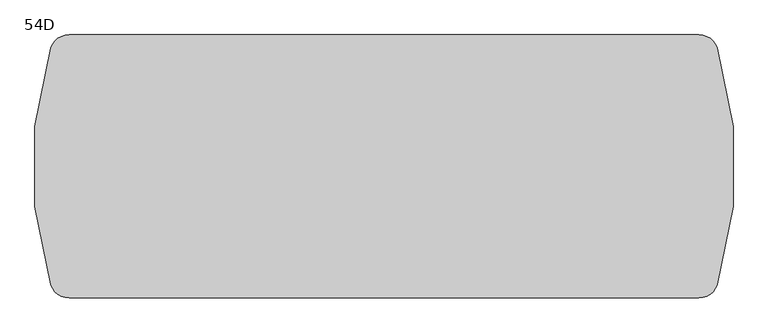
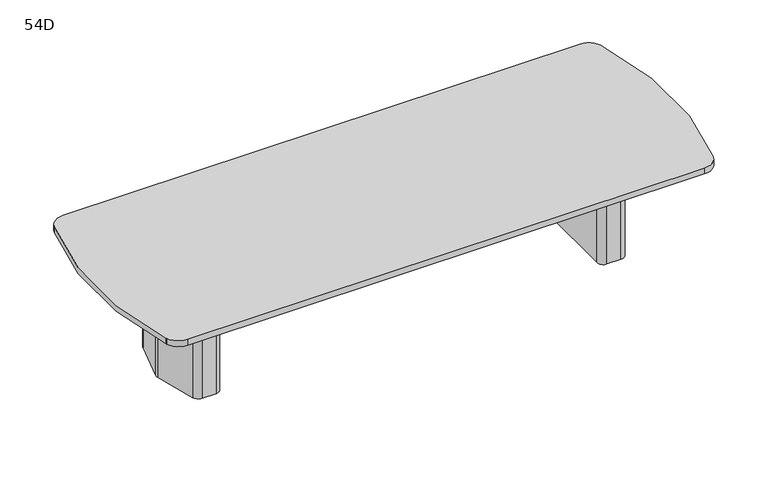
"""IFC4 building model written with IfcOpenShell, lengths in millimetres: furniture geometry, Coalesse_AM_Table_Conference_ETable2_SoftRadiused_12ft_TwoBase : 54D."""

from ifc_helpers import new_model, si_unit, point, frame, frame_2d, origin, place, context, project, spatial, polyline, circle_curve, trimmed, segment, composite_curve, outline, extrude, source, transform, mapped, element, save
from ifc_brep_helpers import plane_surface, cylinder_surface, revolved_surface, advanced_brep


def furniture_54d_40802029(model_context):
    return source(origin(), model_context, "Body", "SolidModel", [
        advanced_brep(
        [(1370.224548, 274.2093613, 698.5), (1330.3579246, 304.8, 698.5), (1241.425, 304.8, 698.5), (1200.15, 263.525, 698.5), (1200.15, -263.525, 698.5), (1241.425, -304.8, 698.5), (1330.3579246, -304.8, 698.5), (1370.224548, -274.2093613, 698.5), (1440.8503901, -10.6333708, 698.5), (1440.8503901, 10.6333708, 698.5), (1238.25, -206.375, 698.5), (1238.25, 206.375, 698.5), (1263.65, 231.775, 698.5), (1322.6608422, 231.775, 698.5), (1347.195338, 212.9490792, 698.5), (1385.8875, 68.54974, 698.5), (1385.8875, -68.54974, 698.5), (1347.195338, -212.9490792, 698.5), (1322.6608422, -231.775, 698.5), (1263.65, -231.775, 698.5), (1370.224548, 274.2093613, 3.175), (1440.8503901, 10.6333708, 3.175), (1440.8503901, -10.6333708, 3.175), (1370.224548, -274.2093613, 3.175), (1330.3579246, -304.8, 3.175), (1241.425, -304.8, 3.175), (1200.15, -263.525, 3.175), (1200.15, 263.525, 3.175), (1241.425, 304.8, 3.175), (1330.3579246, 304.8, 3.175), (1359.4625859, 216.2361187, 3.175), (1322.6608422, 244.475, 3.175), (1263.65, 244.475, 3.175), (1225.55, 206.375, 3.175), (1225.55, -206.375, 3.175), (1263.65, -244.475, 3.175), (1322.6608422, -244.475, 3.175), (1359.4625859, -216.2361187, 3.175), (1398.5875, -70.2217466, 3.175), (1398.5875, 70.2217466, 3.175), (1263.65, -231.775, 3.175), (1238.25, -206.375, 3.175), (1322.6608422, -231.775, 3.175), (1347.195338, -212.9490792, 3.175), (1385.8875, -68.54974, 3.175), (1385.8875, 68.54974, 3.175), (1347.195338, 212.9490792, 3.175), (1322.6608422, 231.775, 3.175), (1263.65, 231.775, 3.175), (1238.25, 206.375, 3.175), (1359.4625859, 216.2361187, 0.0), (1398.5875, 70.2217466, 0.0), (1398.5875, -70.2217466, 0.0), (1359.4625859, -216.2361187, 0.0), (1322.6608422, -244.475, 0.0), (1263.65, -244.475, 0.0), (1225.55, -206.375, 0.0), (1225.55, 206.375, 0.0), (1263.65, 244.475, 0.0), (1322.6608422, 244.475, 0.0)],
        [
            (0, 1, circle_curve(frame((1330.3579246, 263.5270004, 698.5), z_axis=(0.0, 0.0, 1.0), x_axis=(-1.0, 0.0, 0.0)), 41.2729996)),
            (1, 2),
            (2, 3, circle_curve(frame((1241.425, 263.525, 698.5), z_axis=(0.0, 0.0, 1.0), x_axis=(-1.0, 0.0, 0.0)), 41.275)),
            (3, 4),
            (4, 5, circle_curve(frame((1241.425, -263.525, 698.5), z_axis=(0.0, 0.0, 1.0), x_axis=(-1.0, 0.0, 0.0)), 41.275)),
            (5, 6),
            (6, 7, circle_curve(frame((1330.3579246, -263.5270004, 698.5), z_axis=(0.0, 0.0, 1.0), x_axis=(-1.0, 0.0, 0.0)), 41.2729996)),
            (7, 8),
            (8, 9, circle_curve(frame((1401.1665979, 0.0, 698.5), z_axis=(0.0, 0.0, 1.0), x_axis=(-1.0, 0.0, 0.0)), 41.0837187)),
            (9, 0),
            (10, 11),
            (11, 12, circle_curve(frame((1263.65, 206.375, 698.5), z_axis=(0.0, 0.0, -1.0), x_axis=(-1.0, 0.0, 0.0)), 25.4)),
            (12, 13),
            (13, 14, circle_curve(frame((1322.6608422, 206.375, 698.5), z_axis=(0.0, 0.0, -1.0), x_axis=(-1.0, 0.0, 0.0)), 25.4)),
            (14, 15),
            (15, 16),
            (16, 17),
            (17, 18, circle_curve(frame((1322.6608422, -206.375, 698.5), z_axis=(0.0, 0.0, -1.0), x_axis=(-1.0, 0.0, 0.0)), 25.4)),
            (18, 19),
            (19, 10, circle_curve(frame((1263.65, -206.375, 698.5), z_axis=(0.0, 0.0, -1.0), x_axis=(-1.0, 0.0, 0.0)), 25.4)),
            (20, 21),
            (21, 22, circle_curve(frame((1401.1665979, 0.0, 3.175), z_axis=(0.0, 0.0, -1.0), x_axis=(-1.0, 0.0, 0.0)), 41.0837187)),
            (22, 23),
            (23, 24, circle_curve(frame((1330.3579246, -263.5270004, 3.175), z_axis=(0.0, 0.0, -1.0), x_axis=(-1.0, 0.0, 0.0)), 41.2729996)),
            (24, 25),
            (25, 26, circle_curve(frame((1241.425, -263.525, 3.175), z_axis=(0.0, 0.0, -1.0), x_axis=(-1.0, 0.0, 0.0)), 41.275)),
            (26, 27),
            (27, 28, circle_curve(frame((1241.425, 263.525, 3.175), z_axis=(0.0, 0.0, -1.0), x_axis=(-1.0, 0.0, 0.0)), 41.275)),
            (28, 29),
            (29, 20, circle_curve(frame((1330.3579246, 263.5270004, 3.175), z_axis=(0.0, 0.0, -1.0), x_axis=(-1.0, 0.0, 0.0)), 41.2729996)),
            (30, 31, circle_curve(frame((1322.6608422, 206.375, 3.175), z_axis=(0.0, 0.0, 1.0), x_axis=(-1.0, 0.0, 0.0)), 38.1)),
            (31, 32),
            (32, 33, circle_curve(frame((1263.65, 206.375, 3.175), z_axis=(0.0, 0.0, 1.0), x_axis=(-1.0, 0.0, 0.0)), 38.1)),
            (33, 34),
            (34, 35, circle_curve(frame((1263.65, -206.375, 3.175), z_axis=(0.0, 0.0, 1.0), x_axis=(-1.0, 0.0, 0.0)), 38.1)),
            (35, 36),
            (36, 37, circle_curve(frame((1322.6608422, -206.375, 3.175), z_axis=(0.0, 0.0, 1.0), x_axis=(-1.0, 0.0, 0.0)), 38.1)),
            (37, 38),
            (38, 39),
            (39, 30),
            (9, 21),
            (20, 0),
            (8, 22),
            (7, 23),
            (6, 24),
            (5, 25),
            (4, 26),
            (3, 27),
            (2, 28),
            (1, 29),
            (19, 40),
            (40, 41, circle_curve(frame((1263.65, -206.375, 3.175), z_axis=(0.0, 0.0, -1.0), x_axis=(-1.0, 0.0, 0.0)), 25.4)),
            (41, 10),
            (18, 42),
            (42, 40),
            (17, 43),
            (43, 42, circle_curve(frame((1322.6608422, -206.375, 3.175), z_axis=(0.0, 0.0, -1.0), x_axis=(-1.0, 0.0, 0.0)), 25.4)),
            (16, 44),
            (44, 43),
            (15, 45),
            (45, 44),
            (14, 46),
            (46, 45),
            (13, 47),
            (47, 46, circle_curve(frame((1322.6608422, 206.375, 3.175), z_axis=(0.0, 0.0, -1.0), x_axis=(-1.0, 0.0, 0.0)), 25.4)),
            (12, 48),
            (48, 47),
            (11, 49),
            (49, 48, circle_curve(frame((1263.65, 206.375, 3.175), z_axis=(0.0, 0.0, -1.0), x_axis=(-1.0, 0.0, 0.0)), 25.4)),
            (41, 49),
            (50, 51),
            (51, 52),
            (52, 53),
            (53, 54, circle_curve(frame((1322.6608422, -206.375, 0.0), z_axis=(0.0, 0.0, -1.0), x_axis=(-1.0, 0.0, 0.0)), 38.1)),
            (54, 55),
            (55, 56, circle_curve(frame((1263.65, -206.375, 0.0), z_axis=(0.0, 0.0, -1.0), x_axis=(-1.0, 0.0, 0.0)), 38.1)),
            (56, 57),
            (57, 58, circle_curve(frame((1263.65, 206.375, 0.0), z_axis=(0.0, 0.0, -1.0), x_axis=(-1.0, 0.0, 0.0)), 38.1)),
            (58, 59),
            (59, 50, circle_curve(frame((1322.6608422, 206.375, 0.0), z_axis=(0.0, 0.0, -1.0), x_axis=(-1.0, 0.0, 0.0)), 38.1)),
            (50, 30),
            (39, 51),
            (38, 52),
            (37, 53),
            (36, 54),
            (35, 55),
            (34, 56),
            (33, 57),
            (32, 58),
            (31, 59),
        ],
        [
            plane_surface(frame((1440.8374275, 10.6817473, 698.5), z_axis=(0.0, 0.0, 1.0000000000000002), x_axis=(0.25882201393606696, -0.9659250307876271, 0.0))),
            plane_surface(frame((1440.8374275, 10.6817473, 3.175), z_axis=(0.0, 0.0, -1.0000000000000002), x_axis=(-0.25882201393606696, 0.9659250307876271, 0.0))),
            plane_surface(frame((1370.224548, 274.2093613, 698.5), z_axis=(0.9659250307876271, 0.25882201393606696, 0.0), x_axis=(0.0, 0.0, -1.0))),
            cylinder_surface(frame((1401.1665979, 0.0, 3.175), z_axis=(0.0, 0.0, 1.0), x_axis=(-1.0, 0.0, 0.0)), 41.0837187),
            plane_surface(frame((1440.8503901, -10.6333708, 698.5), z_axis=(0.9659250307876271, -0.2588220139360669, 0.0), x_axis=(0.0, 0.0, -1.0))),
            cylinder_surface(frame((1330.3579246, -263.5270004, 3.175), z_axis=(0.0, 0.0, 1.0), x_axis=(-1.0, 0.0, 0.0)), 41.2729996),
            plane_surface(frame((1330.3579246, -304.8, 698.5), z_axis=(0.0, -1.0, 0.0), x_axis=(0.0, 0.0, -1.0))),
            cylinder_surface(frame((1241.425, -263.525, 3.175), z_axis=(0.0, 0.0, 1.0), x_axis=(-1.0, 0.0, 0.0)), 41.275),
            plane_surface(frame((1200.15, -263.525, 698.5), z_axis=(-1.0, 0.0, 0.0), x_axis=(0.0, 0.0, -1.0))),
            cylinder_surface(frame((1241.425, 263.525, 3.175), z_axis=(0.0, 0.0, 1.0), x_axis=(-1.0, 0.0, 0.0)), 41.275),
            plane_surface(frame((1241.425, 304.8, 698.5), z_axis=(0.0, 1.0, 0.0), x_axis=(0.0, 0.0, -1.0))),
            cylinder_surface(frame((1330.3579246, 263.5270004, 3.175), z_axis=(0.0, 0.0, 1.0), x_axis=(-1.0, 0.0, 0.0)), 41.2729996),
            revolved_surface(polyline([(1238.25, -206.375, 3.175), (1238.25, -206.375, 698.5)]), (1263.65, -206.375, 0.0), (0.0, 0.0, -1.0)),
            plane_surface(frame((1263.65, -231.775, 698.5), z_axis=(0.0, 1.0, 0.0), x_axis=(0.0, 0.0, -1.0))),
            revolved_surface(polyline([(1297.2608421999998, -206.375, 3.175), (1297.2608421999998, -206.375, 698.5)]), (1322.6608422, -206.375, 0.0), (0.0, 0.0, -1.0)),
            plane_surface(frame((1347.195338, -212.9490792, 698.5), z_axis=(-0.9659250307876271, 0.2588220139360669, 0.0), x_axis=(0.0, 0.0, -1.0))),
            plane_surface(frame((1385.8875, -68.54974, 698.5), z_axis=(-1.0, 0.0, 0.0), x_axis=(0.0, 0.0, -1.0))),
            plane_surface(frame((1385.8875, 68.54974, 698.5), z_axis=(-0.9659250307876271, -0.25882201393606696, 0.0), x_axis=(0.0, 0.0, -1.0))),
            revolved_surface(polyline([(1297.2608421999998, 206.375, 3.175), (1297.2608421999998, 206.375, 698.5)]), (1322.6608422, 206.375, 0.0), (0.0, 0.0, -1.0)),
            plane_surface(frame((1322.6608422, 231.775, 698.5), z_axis=(0.0, -1.0, 0.0), x_axis=(0.0, 0.0, -1.0))),
            revolved_surface(polyline([(1238.25, 206.375, 3.175), (1238.25, 206.375, 698.5)]), (1263.65, 206.375, 0.0), (0.0, 0.0, -1.0)),
            plane_surface(frame((1238.25, 206.375, 698.5), z_axis=(1.0, 0.0, 0.0), x_axis=(0.0, 0.0, -1.0))),
            plane_surface(frame((1398.1547479, 71.8367796, 3.175), z_axis=(0.0, 0.0, 1.0), x_axis=(0.25882201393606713, -0.965925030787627, 0.0))),
            plane_surface(frame((1398.1547479, 71.8367796, 0.0), z_axis=(0.0, 0.0, -1.0), x_axis=(-0.25882201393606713, 0.965925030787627, 0.0))),
            plane_surface(frame((1359.4625859, 216.2361187, 3.175), z_axis=(0.965925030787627, 0.25882201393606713, 0.0), x_axis=(0.0, 0.0, -1.0))),
            plane_surface(frame((1398.5875, 70.2217466, 3.175), z_axis=(1.0, 0.0, 0.0), x_axis=(0.0, 0.0, -1.0))),
            plane_surface(frame((1398.5875, -70.2217466, 3.175), z_axis=(0.9659250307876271, -0.2588220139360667, 0.0), x_axis=(0.0, 0.0, -1.0))),
            cylinder_surface(frame((1322.6608422, -206.375, 0.0), z_axis=(0.0, 0.0, 1.0), x_axis=(-1.0, 0.0, 0.0)), 38.1),
            plane_surface(frame((1322.6608422, -244.475, 3.175), z_axis=(0.0, -1.0, 0.0), x_axis=(0.0, 0.0, -1.0))),
            cylinder_surface(frame((1263.65, -206.375, 0.0), z_axis=(0.0, 0.0, 1.0), x_axis=(-1.0, 0.0, 0.0)), 38.1),
            plane_surface(frame((1225.55, -206.375, 3.175), z_axis=(-1.0, 0.0, 0.0), x_axis=(0.0, 0.0, -1.0))),
            cylinder_surface(frame((1263.65, 206.375, 0.0), z_axis=(0.0, 0.0, 1.0), x_axis=(-1.0, 0.0, 0.0)), 38.1),
            plane_surface(frame((1263.65, 244.475, 3.175), z_axis=(0.0, 1.0, 0.0), x_axis=(0.0, 0.0, -1.0))),
            cylinder_surface(frame((1322.6608422, 206.375, 0.0), z_axis=(0.0, 0.0, 1.0), x_axis=(-1.0, 0.0, 0.0)), 38.1),
        ],
        [
            (0, [[1, 2, 3, 4, 5, 6, 7, 8, 9, 10], [11, 12, 13, 14, 15, 16, 17, 18, 19, 20]]),
            (1, [[21, 22, 23, 24, 25, 26, 27, 28, 29, 30], [31, 32, 33, 34, 35, 36, 37, 38, 39, 40]]),
            (2, [[41, -21, 42, -10]]),
            (3, [[43, -22, -41, -9]]),
            (4, [[44, -23, -43, -8]]),
            (5, [[45, -24, -44, -7]]),
            (6, [[46, -25, -45, -6]]),
            (7, [[47, -26, -46, -5]]),
            (8, [[48, -27, -47, -4]]),
            (9, [[49, -28, -48, -3]]),
            (10, [[50, -29, -49, -2]]),
            (11, [[-42, -30, -50, -1]]),
            (12, [[51, 52, 53, -20]]),
            (13, [[54, 55, -51, -19]]),
            (14, [[56, 57, -54, -18]]),
            (15, [[58, 59, -56, -17]]),
            (16, [[60, 61, -58, -16]]),
            (17, [[62, 63, -60, -15]]),
            (18, [[64, 65, -62, -14]]),
            (19, [[66, 67, -64, -13]]),
            (20, [[68, 69, -66, -12]]),
            (21, [[-53, 70, -68, -11]]),
            (22, [[-55, -57, -59, -61, -63, -65, -67, -69, -70, -52]]),
            (23, [[71, 72, 73, 74, 75, 76, 77, 78, 79, 80]]),
            (24, [[81, -40, 82, -71]]),
            (25, [[-82, -39, 83, -72]]),
            (26, [[-83, -38, 84, -73]]),
            (27, [[-84, -37, 85, -74]]),
            (28, [[-85, -36, 86, -75]]),
            (29, [[-86, -35, 87, -76]]),
            (30, [[-87, -34, 88, -77]]),
            (31, [[-88, -33, 89, -78]]),
            (32, [[-89, -32, 90, -79]]),
            (33, [[-90, -31, -81, -80]]),
        ],
    ),
        advanced_brep(
        [(-1370.224548, 274.2093613, 698.5), (-1440.8503901, 10.6333708, 698.5), (-1440.8503901, -10.6333708, 698.5), (-1370.224548, -274.2093613, 698.5), (-1330.3579246, -304.8, 698.5), (-1241.425, -304.8, 698.5), (-1200.15, -263.525, 698.5), (-1200.15, 263.525, 698.5), (-1241.425, 304.8, 698.5), (-1330.3579246, 304.8, 698.5), (-1238.25, -206.375, 698.5), (-1263.65, -231.775, 698.5), (-1322.6608422, -231.775, 698.5), (-1347.195338, -212.9490792, 698.5), (-1385.8875, -68.54974, 698.5), (-1385.8875, 68.54974, 698.5), (-1347.195338, 212.9490792, 698.5), (-1322.6608422, 231.775, 698.5), (-1263.65, 231.775, 698.5), (-1238.25, 206.375, 698.5), (-1370.224548, 274.2093613, 3.175), (-1330.3579246, 304.8, 3.175), (-1241.425, 304.8, 3.175), (-1200.15, 263.525, 3.175), (-1200.15, -263.525, 3.175), (-1241.425, -304.8, 3.175), (-1330.3579246, -304.8, 3.175), (-1370.224548, -274.2093613, 3.175), (-1440.8503901, -10.6333708, 3.175), (-1440.8503901, 10.6333708, 3.175), (-1359.4625859, 216.2361187, 3.175), (-1398.5875, 70.2217466, 3.175), (-1398.5875, -70.2217466, 3.175), (-1359.4625859, -216.2361187, 3.175), (-1322.6608422, -244.475, 3.175), (-1263.65, -244.475, 3.175), (-1225.55, -206.375, 3.175), (-1225.55, 206.375, 3.175), (-1263.65, 244.475, 3.175), (-1322.6608422, 244.475, 3.175), (-1238.25, -206.375, 3.175), (-1263.65, -231.775, 3.175), (-1322.6608422, -231.775, 3.175), (-1347.195338, -212.9490792, 3.175), (-1385.8875, -68.54974, 3.175), (-1385.8875, 68.54974, 3.175), (-1347.195338, 212.9490792, 3.175), (-1322.6608422, 231.775, 3.175), (-1263.65, 231.775, 3.175), (-1238.25, 206.375, 3.175), (-1359.4625859, 216.2361187, 0.0), (-1322.6608422, 244.475, 0.0), (-1263.65, 244.475, 0.0), (-1225.55, 206.375, 0.0), (-1225.55, -206.375, 0.0), (-1263.65, -244.475, 0.0), (-1322.6608422, -244.475, 0.0), (-1359.4625859, -216.2361187, 0.0), (-1398.5875, -70.2217466, 0.0), (-1398.5875, 70.2217466, 0.0)],
        [
            (0, 1),
            (1, 2, circle_curve(frame((-1401.1665979, 0.0, 698.5), z_axis=(0.0, 0.0, 1.0), x_axis=(1.0, 0.0, 0.0)), 41.0837187)),
            (2, 3),
            (3, 4, circle_curve(frame((-1330.3579246, -263.5270004, 698.5), z_axis=(0.0, 0.0, 1.0), x_axis=(1.0, 0.0, 0.0)), 41.2729996)),
            (4, 5),
            (5, 6, circle_curve(frame((-1241.425, -263.525, 698.5), z_axis=(0.0, 0.0, 1.0), x_axis=(1.0, 0.0, 0.0)), 41.275)),
            (6, 7),
            (7, 8, circle_curve(frame((-1241.425, 263.525, 698.5), z_axis=(0.0, 0.0, 1.0), x_axis=(1.0, 0.0, 0.0)), 41.275)),
            (8, 9),
            (9, 0, circle_curve(frame((-1330.3579246, 263.5270004, 698.5), z_axis=(0.0, 0.0, 1.0), x_axis=(1.0, 0.0, 0.0)), 41.2729996)),
            (10, 11, circle_curve(frame((-1263.65, -206.375, 698.5), z_axis=(0.0, 0.0, -1.0), x_axis=(1.0, 0.0, 0.0)), 25.4)),
            (11, 12),
            (12, 13, circle_curve(frame((-1322.6608422, -206.375, 698.5), z_axis=(0.0, 0.0, -1.0), x_axis=(1.0, 0.0, 0.0)), 25.4)),
            (13, 14),
            (14, 15),
            (15, 16),
            (16, 17, circle_curve(frame((-1322.6608422, 206.375, 698.5), z_axis=(0.0, 0.0, -1.0), x_axis=(1.0, 0.0, 0.0)), 25.4)),
            (17, 18),
            (18, 19, circle_curve(frame((-1263.65, 206.375, 698.5), z_axis=(0.0, 0.0, -1.0), x_axis=(1.0, 0.0, 0.0)), 25.4)),
            (19, 10),
            (20, 21, circle_curve(frame((-1330.3579246, 263.5270004, 3.175), z_axis=(0.0, 0.0, -1.0), x_axis=(1.0, 0.0, 0.0)), 41.2729996)),
            (21, 22),
            (22, 23, circle_curve(frame((-1241.425, 263.525, 3.175), z_axis=(0.0, 0.0, -1.0), x_axis=(1.0, 0.0, 0.0)), 41.275)),
            (23, 24),
            (24, 25, circle_curve(frame((-1241.425, -263.525, 3.175), z_axis=(0.0, 0.0, -1.0), x_axis=(1.0, 0.0, 0.0)), 41.275)),
            (25, 26),
            (26, 27, circle_curve(frame((-1330.3579246, -263.5270004, 3.175), z_axis=(0.0, 0.0, -1.0), x_axis=(1.0, 0.0, 0.0)), 41.2729996)),
            (27, 28),
            (28, 29, circle_curve(frame((-1401.1665979, 0.0, 3.175), z_axis=(0.0, 0.0, -1.0), x_axis=(1.0, 0.0, 0.0)), 41.0837187)),
            (29, 20),
            (30, 31),
            (31, 32),
            (32, 33),
            (33, 34, circle_curve(frame((-1322.6608422, -206.375, 3.175), z_axis=(0.0, 0.0, 1.0), x_axis=(1.0, 0.0, 0.0)), 38.1)),
            (34, 35),
            (35, 36, circle_curve(frame((-1263.65, -206.375, 3.175), z_axis=(0.0, 0.0, 1.0), x_axis=(1.0, 0.0, 0.0)), 38.1)),
            (36, 37),
            (37, 38, circle_curve(frame((-1263.65, 206.375, 3.175), z_axis=(0.0, 0.0, 1.0), x_axis=(1.0, 0.0, 0.0)), 38.1)),
            (38, 39),
            (39, 30, circle_curve(frame((-1322.6608422, 206.375, 3.175), z_axis=(0.0, 0.0, 1.0), x_axis=(1.0, 0.0, 0.0)), 38.1)),
            (0, 20),
            (29, 1),
            (28, 2),
            (27, 3),
            (26, 4),
            (25, 5),
            (24, 6),
            (23, 7),
            (22, 8),
            (21, 9),
            (10, 40),
            (40, 41, circle_curve(frame((-1263.65, -206.375, 3.175), z_axis=(0.0, 0.0, -1.0), x_axis=(1.0, 0.0, 0.0)), 25.4)),
            (41, 11),
            (41, 42),
            (42, 12),
            (42, 43, circle_curve(frame((-1322.6608422, -206.375, 3.175), z_axis=(0.0, 0.0, -1.0), x_axis=(1.0, 0.0, 0.0)), 25.4)),
            (43, 13),
            (43, 44),
            (44, 14),
            (44, 45),
            (45, 15),
            (45, 46),
            (46, 16),
            (46, 47, circle_curve(frame((-1322.6608422, 206.375, 3.175), z_axis=(0.0, 0.0, -1.0), x_axis=(1.0, 0.0, 0.0)), 25.4)),
            (47, 17),
            (47, 48),
            (48, 18),
            (48, 49, circle_curve(frame((-1263.65, 206.375, 3.175), z_axis=(0.0, 0.0, -1.0), x_axis=(1.0, 0.0, 0.0)), 25.4)),
            (49, 19),
            (49, 40),
            (50, 51, circle_curve(frame((-1322.6608422, 206.375, 0.0), z_axis=(0.0, 0.0, -1.0), x_axis=(1.0, 0.0, 0.0)), 38.1)),
            (51, 52),
            (52, 53, circle_curve(frame((-1263.65, 206.375, 0.0), z_axis=(0.0, 0.0, -1.0), x_axis=(1.0, 0.0, 0.0)), 38.1)),
            (53, 54),
            (54, 55, circle_curve(frame((-1263.65, -206.375, 0.0), z_axis=(0.0, 0.0, -1.0), x_axis=(1.0, 0.0, 0.0)), 38.1)),
            (55, 56),
            (56, 57, circle_curve(frame((-1322.6608422, -206.375, 0.0), z_axis=(0.0, 0.0, -1.0), x_axis=(1.0, 0.0, 0.0)), 38.1)),
            (57, 58),
            (58, 59),
            (59, 50),
            (59, 31),
            (30, 50),
            (58, 32),
            (57, 33),
            (56, 34),
            (55, 35),
            (54, 36),
            (53, 37),
            (52, 38),
            (51, 39),
        ],
        [
            plane_surface(frame((-1440.8374275, 10.6817473, 698.5), z_axis=(0.0, 0.0, 1.0000000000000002), x_axis=(-0.25882201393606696, -0.9659250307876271, 0.0))),
            plane_surface(frame((-1440.8374275, 10.6817473, 3.175), z_axis=(0.0, 0.0, -1.0000000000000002), x_axis=(0.25882201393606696, 0.9659250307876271, 0.0))),
            plane_surface(frame((-1370.224548, 274.2093613, 698.5), z_axis=(-0.9659250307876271, 0.25882201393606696, 0.0), x_axis=(0.0, 0.0, -1.0))),
            cylinder_surface(frame((-1401.1665979, 0.0, 3.175), z_axis=(0.0, 0.0, 1.0), x_axis=(1.0, 0.0, 0.0)), 41.0837187),
            plane_surface(frame((-1440.8503901, -10.6333708, 698.5), z_axis=(-0.9659250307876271, -0.2588220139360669, 0.0), x_axis=(0.0, 0.0, -1.0))),
            cylinder_surface(frame((-1330.3579246, -263.5270004, 3.175), z_axis=(0.0, 0.0, 1.0), x_axis=(1.0, 0.0, 0.0)), 41.2729996),
            plane_surface(frame((-1330.3579246, -304.8, 698.5), z_axis=(0.0, -1.0, 0.0), x_axis=(0.0, 0.0, -1.0))),
            cylinder_surface(frame((-1241.425, -263.525, 3.175), z_axis=(0.0, 0.0, 1.0), x_axis=(1.0, 0.0, 0.0)), 41.275),
            plane_surface(frame((-1200.15, -263.525, 698.5), z_axis=(1.0, 0.0, 0.0), x_axis=(0.0, 0.0, -1.0))),
            cylinder_surface(frame((-1241.425, 263.525, 3.175), z_axis=(0.0, 0.0, 1.0), x_axis=(1.0, 0.0, 0.0)), 41.275),
            plane_surface(frame((-1241.425, 304.8, 698.5), z_axis=(0.0, 1.0, 0.0), x_axis=(0.0, 0.0, -1.0))),
            cylinder_surface(frame((-1330.3579246, 263.5270004, 3.175), z_axis=(0.0, 0.0, 1.0), x_axis=(1.0, 0.0, 0.0)), 41.2729996),
            revolved_surface(polyline([(-1238.25, -206.375, 3.175), (-1238.25, -206.375, 698.5)]), (-1263.65, -206.375, 0.0), (0.0, 0.0, -1.0)),
            plane_surface(frame((-1263.65, -231.775, 698.5), z_axis=(0.0, 1.0, 0.0), x_axis=(0.0, 0.0, -1.0))),
            revolved_surface(polyline([(-1297.2608421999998, -206.375, 3.175), (-1297.2608421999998, -206.375, 698.5)]), (-1322.6608422, -206.375, 0.0), (0.0, 0.0, -1.0)),
            plane_surface(frame((-1347.195338, -212.9490792, 698.5), z_axis=(0.9659250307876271, 0.2588220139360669, 0.0), x_axis=(0.0, 0.0, -1.0))),
            plane_surface(frame((-1385.8875, -68.54974, 698.5), z_axis=(1.0, 0.0, 0.0), x_axis=(0.0, 0.0, -1.0))),
            plane_surface(frame((-1385.8875, 68.54974, 698.5), z_axis=(0.9659250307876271, -0.25882201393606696, 0.0), x_axis=(0.0, 0.0, -1.0))),
            revolved_surface(polyline([(-1297.2608421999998, 206.375, 3.175), (-1297.2608421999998, 206.375, 698.5)]), (-1322.6608422, 206.375, 0.0), (0.0, 0.0, -1.0)),
            plane_surface(frame((-1322.6608422, 231.775, 698.5), z_axis=(0.0, -1.0, 0.0), x_axis=(0.0, 0.0, -1.0))),
            revolved_surface(polyline([(-1238.25, 206.375, 3.175), (-1238.25, 206.375, 698.5)]), (-1263.65, 206.375, 0.0), (0.0, 0.0, -1.0)),
            plane_surface(frame((-1238.25, 206.375, 698.5), z_axis=(-1.0, 0.0, 0.0), x_axis=(0.0, 0.0, -1.0))),
            plane_surface(frame((-1398.1547479, 71.8367796, 3.175), z_axis=(0.0, 0.0, 1.0), x_axis=(-0.25882201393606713, -0.965925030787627, 0.0))),
            plane_surface(frame((-1398.1547479, 71.8367796, 0.0), z_axis=(0.0, 0.0, -1.0), x_axis=(0.25882201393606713, 0.965925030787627, 0.0))),
            plane_surface(frame((-1359.4625859, 216.2361187, 3.175), z_axis=(-0.965925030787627, 0.25882201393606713, 0.0), x_axis=(0.0, 0.0, -1.0))),
            plane_surface(frame((-1398.5875, 70.2217466, 3.175), z_axis=(-1.0, 0.0, 0.0), x_axis=(0.0, 0.0, -1.0))),
            plane_surface(frame((-1398.5875, -70.2217466, 3.175), z_axis=(-0.9659250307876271, -0.2588220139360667, 0.0), x_axis=(0.0, 0.0, -1.0))),
            cylinder_surface(frame((-1322.6608422, -206.375, 0.0), z_axis=(0.0, 0.0, 1.0), x_axis=(1.0, 0.0, 0.0)), 38.1),
            plane_surface(frame((-1322.6608422, -244.475, 3.175), z_axis=(0.0, -1.0, 0.0), x_axis=(0.0, 0.0, -1.0))),
            cylinder_surface(frame((-1263.65, -206.375, 0.0), z_axis=(0.0, 0.0, 1.0), x_axis=(1.0, 0.0, 0.0)), 38.1),
            plane_surface(frame((-1225.55, -206.375, 3.175), z_axis=(1.0, 0.0, 0.0), x_axis=(0.0, 0.0, -1.0))),
            cylinder_surface(frame((-1263.65, 206.375, 0.0), z_axis=(0.0, 0.0, 1.0), x_axis=(1.0, 0.0, 0.0)), 38.1),
            plane_surface(frame((-1263.65, 244.475, 3.175), z_axis=(0.0, 1.0, 0.0), x_axis=(0.0, 0.0, -1.0))),
            cylinder_surface(frame((-1322.6608422, 206.375, 0.0), z_axis=(0.0, 0.0, 1.0), x_axis=(1.0, 0.0, 0.0)), 38.1),
        ],
        [
            (0, [[1, 2, 3, 4, 5, 6, 7, 8, 9, 10], [11, 12, 13, 14, 15, 16, 17, 18, 19, 20]]),
            (1, [[21, 22, 23, 24, 25, 26, 27, 28, 29, 30], [31, 32, 33, 34, 35, 36, 37, 38, 39, 40]]),
            (2, [[-1, 41, -30, 42]]),
            (3, [[-2, -42, -29, 43]]),
            (4, [[-3, -43, -28, 44]]),
            (5, [[-4, -44, -27, 45]]),
            (6, [[-5, -45, -26, 46]]),
            (7, [[-6, -46, -25, 47]]),
            (8, [[-7, -47, -24, 48]]),
            (9, [[-8, -48, -23, 49]]),
            (10, [[-9, -49, -22, 50]]),
            (11, [[-10, -50, -21, -41]]),
            (12, [[-11, 51, 52, 53]]),
            (13, [[-12, -53, 54, 55]]),
            (14, [[-13, -55, 56, 57]]),
            (15, [[-14, -57, 58, 59]]),
            (16, [[-15, -59, 60, 61]]),
            (17, [[-16, -61, 62, 63]]),
            (18, [[-17, -63, 64, 65]]),
            (19, [[-18, -65, 66, 67]]),
            (20, [[-19, -67, 68, 69]]),
            (21, [[-20, -69, 70, -51]]),
            (22, [[-52, -70, -68, -66, -64, -62, -60, -58, -56, -54]]),
            (23, [[71, 72, 73, 74, 75, 76, 77, 78, 79, 80]]),
            (24, [[-80, 81, -31, 82]]),
            (25, [[-79, 83, -32, -81]]),
            (26, [[-78, 84, -33, -83]]),
            (27, [[-77, 85, -34, -84]]),
            (28, [[-76, 86, -35, -85]]),
            (29, [[-75, 87, -36, -86]]),
            (30, [[-74, 88, -37, -87]]),
            (31, [[-73, 89, -38, -88]]),
            (32, [[-72, 90, -39, -89]]),
            (33, [[-71, -82, -40, -90]]),
        ],
    ),
        extrude(outline(composite_curve([segment(trimmed(circle_curve(frame_2d((265.815011, 5.18e-05)), 2094.615011), [point((-1736.1539068, -616.0620365))], [point((-1736.1956256, 615.9265532))], False, "CARTESIAN"), True, "CONTINUOUS"), segment(polyline([(-1736.1956256, 615.9265532), (-1735.4453442, 618.0662966)]), True, "CONTINUOUS"), segment(trimmed(circle_curve(frame_2d((-1639.6558148, 584.2)), 101.6), [point((-1735.4453442, 618.0662966))], [point((-1639.6558148, 685.8))], False, "CARTESIAN"), True, "CONTINUOUS"), segment(polyline([(-1639.6558148, 685.8), (1639.6558148, 685.8)]), True, "CONTINUOUS"), segment(trimmed(circle_curve(frame_2d((1639.6558148, 584.2)), 101.6), [point((1639.6558148, 685.8))], [point((1735.4453444, 618.0662962))], False, "CARTESIAN"), True, "CONTINUOUS"), segment(polyline([(1735.4453444, 618.0662962), (1736.1956281, 615.9466458)]), True, "CONTINUOUS"), segment(trimmed(circle_curve(frame_2d((-265.9487055, 5.18e-05)), 2094.7487055), [point((1736.1956281, 615.9466458))], [point((1736.2015476, -615.9273003))], False, "CARTESIAN"), True, "CONTINUOUS"), segment(polyline([(1736.2015476, -615.9273003), (1735.4457113, -618.0652293)]), True, "CONTINUOUS"), segment(trimmed(circle_curve(frame_2d((1639.6557872, -584.1999756)), 101.6000244), [point((1735.4457113, -618.0652293))], [point((1639.6557872, -685.8))], False, "CARTESIAN"), True, "CONTINUOUS"), segment(polyline([(1639.6557872, -685.8), (-1639.6555469, -685.8)]), True, "CONTINUOUS"), segment(trimmed(circle_curve(frame_2d((-1639.6555469, -584.199927)), 101.600073), [point((-1639.6555469, -685.8))], [point((-1735.4425275, -618.073651))], False, "CARTESIAN"), True, "CONTINUOUS"), segment(polyline([(-1735.4425275, -618.073651), (-1736.1539068, -616.0620365)]), True, "CONTINUOUS")], self_intersect=False)), frame((0.0, 0.0, 698.5), z_axis=(0.0, 0.0, 1.0), x_axis=(1.0, 0.0, 0.0)), (0.0, 0.0, 1.0), 38.1),
        extrude(outline(polyline([(96.8375, 698.5), (103.1875, 698.5), (103.1875, 476.25), (-103.1875, 476.25), (-103.1875, 698.5), (-96.8375, 698.5), (-96.8375, 482.6), (96.8375, 482.6), (96.8375, 698.5)])), frame((-1200.15, 0.0, 0.0), z_axis=(1.0, 0.0, 0.0), x_axis=(0.0, 1.0, 0.0)), (0.0, 0.0, 1.0), 2400.3),
    ])


if __name__ == "__main__":
    model = new_model("IFC4")
    model_context = context("Model", 3, world=origin())
    ifc_project = project(units=[si_unit("LENGTHUNIT", "METRE", prefix="MILLI")], contexts=[model_context])
    site = spatial("IfcSite", under=ifc_project)
    building = spatial("IfcBuilding", under=site)
    placement = place(None, origin())
    furniture_54d_shape = furniture_54d_40802029(model_context)
    element("IfcFurniture", 1, ObjectType="Coalesse_AM_Table_Conference_ETable2_SoftRadiused_12ft_TwoBase : 54D", at=placement, inside=building, context=model_context, shape_type="MappedRepresentation", body=[
        mapped(furniture_54d_shape, transform((0.0, 0.0, 0.0), x_axis=(1.0, 0.0, 0.0), y_axis=(0.0, 1.0, 0.0), z_axis=(0.0, 0.0, 1.0))),
    ])
    save(model, "model.ifc")
